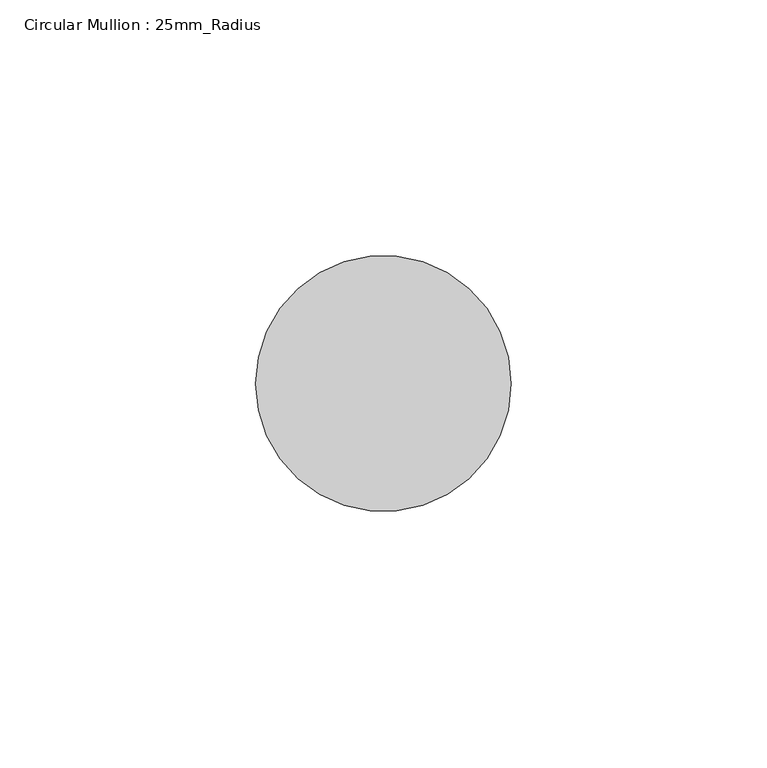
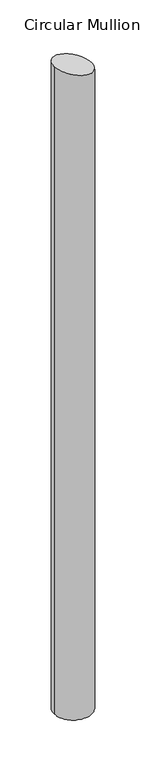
"""IFC4 building model written with IfcOpenShell, lengths in millimetres: member geometry, Circular Mullion : 25mm_Radius."""

from ifc_helpers import new_model, si_unit, frame, origin, place, context, project, spatial, circle_curve, ellipse_curve, source, transform, mapped, element, save
from ifc_brep_helpers import plane_surface, cylinder_surface, advanced_brep


def circular_mullion_25mm_radius_c4ce6fc0(model_context):
    return source(origin(), model_context, "Body", "AdvancedBrep", [
        advanced_brep(
        [(0.0, 0.0, -899.9972154), (-50.0, 0.0, -899.9972154), (-50.0, 0.0, 12.240473), (0.0, 0.0, 0.0)],
        [
            (0, 1, circle_curve(frame((-25.0, 0.0, -899.9972154), z_axis=(0.0, 0.0, -1.0), x_axis=(1.0, 0.0, 0.0)), 25.0)),
            (1, 0, circle_curve(frame((-25.0, 0.0, -899.9972154), z_axis=(0.0, 0.0, -1.0), x_axis=(1.0, 0.0, 0.0)), 25.0)),
            (2, 3, ellipse_curve(frame((-25.0, 0.0, 6.1202365), z_axis=(-0.23778763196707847, 0.0, -0.9713171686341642), x_axis=(-0.9713171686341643, 0.0, 0.23778763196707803)), 25.7382458, 25.0)),
            (3, 0),
            (1, 2),
            (3, 2, ellipse_curve(frame((-25.0, 0.0, 6.1202365), z_axis=(-0.23778763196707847, 0.0, -0.9713171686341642), x_axis=(-0.9713171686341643, 0.0, 0.23778763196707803)), 25.7382458, 25.0)),
        ],
        [
            plane_surface(frame((0.0, -50.0, -899.9972154), z_axis=(0.0, 0.0, -1.0), x_axis=(-1.0, 0.0, 0.0))),
            cylinder_surface(frame((-25.0, 0.0, 0.0), z_axis=(0.0, 0.0, 1.0), x_axis=(1.0, 0.0, 0.0)), 25.0),
            plane_surface(frame((0.0, 304.8, 0.0), z_axis=(0.23778763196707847, 0.0, 0.9713171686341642), x_axis=(0.9713171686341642, 0.0, -0.23778763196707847))),
        ],
        [
            (0, [[1, 2]]),
            (1, [[3, 4, -2, 5]]),
            (1, [[6, -5, -1, -4]]),
            (2, [[-3, -6]]),
        ],
    ),
    ])


if __name__ == "__main__":
    model = new_model("IFC4")
    model_context = context("Model", 3, world=origin())
    ifc_project = project(units=[si_unit("LENGTHUNIT", "METRE", prefix="MILLI")], contexts=[model_context])
    site = spatial("IfcSite", under=ifc_project)
    building = spatial("IfcBuilding", under=site)
    placement = place(None, origin())
    circular_mullion_25mm_radius_shape = circular_mullion_25mm_radius_c4ce6fc0(model_context)
    element("IfcMember", 1, ObjectType="Circular Mullion : 25mm_Radius", at=placement, inside=building, context=model_context, shape_type="MappedRepresentation", body=[
        mapped(circular_mullion_25mm_radius_shape, transform((0.0, 0.0, 0.0), x_axis=(1.0, 0.0, 0.0), y_axis=(0.0, 1.0, 0.0), z_axis=(0.0, 0.0, 1.0))),
    ])
    save(model, "model.ifc")
